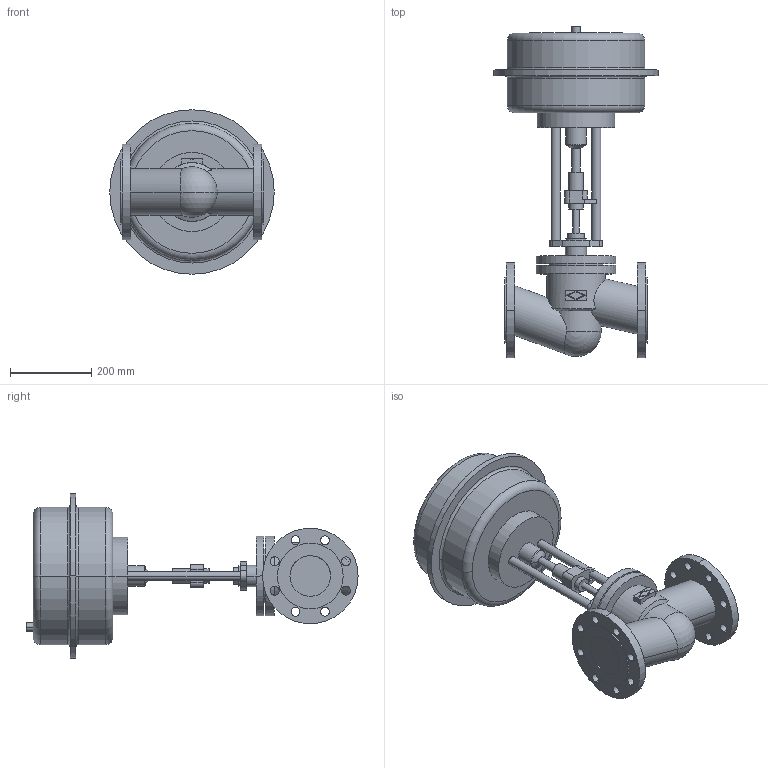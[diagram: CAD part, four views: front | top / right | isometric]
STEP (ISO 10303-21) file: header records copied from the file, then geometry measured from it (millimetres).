
FILE_DESCRIPTION(('OneSpaceDesigner STEP Export'),'2;1');
FILE_NAME('c000001500.stp','2005-02-15T 9:37:19',(''),(''),'OneSpace Designer STEP processor (Jan. 2003) for AP203(Solid Model)','OneSpace Designer 12.01D 09-Jul-2004 (C) CoCreate Software GmbH','');
FILE_SCHEMA(('CONFIG_CONTROL_DESIGN'));
Length unit declared in the file: millimetre
Products named in the file (2): 1; 2
Bounding box: 405 x 817.5 x 405 mm (x, y, z)
Volume: 27461764.9 mm3; surface area: 1000712.5 mm2
Topology: 2 solids, 2 shells, 172 faces, 412 edges, 269 vertices
Faces by surface type: cylinder 96, plane 60, torus 10, cone 4, sphere 2
Entity records: 4857 total; most frequent: CARTESIAN_POINT 1014, ORIENTED_EDGE 820, DIRECTION 669, EDGE_CURVE 410, VERTEX_POINT 269, AXIS2_PLACEMENT_3D 245, EDGE_LOOP 231, VECTOR 179
